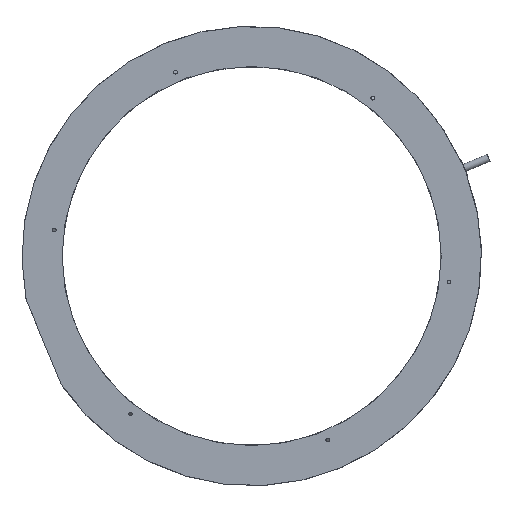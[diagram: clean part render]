
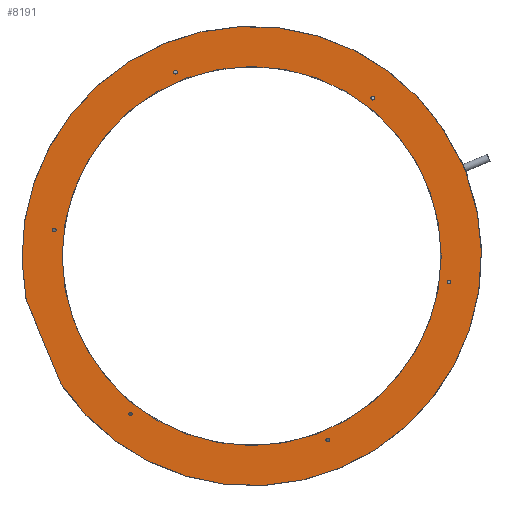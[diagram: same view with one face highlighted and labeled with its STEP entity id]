
A CAD part, top view. The second image highlights one B-rep face of the part: STEP entity #8191.
In plain terms, the highlighted planar face has unit normal (0, 0, 1).
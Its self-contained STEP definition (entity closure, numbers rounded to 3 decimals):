
#2717=CARTESIAN_POINT('',(79.139,103.136,2.));
#2718=DIRECTION('',(0.,0.,-1.));
#2719=DIRECTION('',(1.,0.,0.));
#2720=AXIS2_PLACEMENT_3D('',#2717,#2718,#2719);
#2722=CARTESIAN_POINT('',(79.139,103.136,2.));
#2723=DIRECTION('',(0.,0.,-1.));
#2724=DIRECTION('',(-1.,0.,0.));
#2725=AXIS2_PLACEMENT_3D('',#2722,#2723,#2724);
#2727=CARTESIAN_POINT('',(128.888,-16.968,2.));
#2728=DIRECTION('',(0.,0.,-1.));
#2729=DIRECTION('',(1.,0.,0.));
#2730=AXIS2_PLACEMENT_3D('',#2727,#2728,#2729);
#2732=CARTESIAN_POINT('',(128.888,-16.968,2.));
#2733=DIRECTION('',(0.,0.,-1.));
#2734=DIRECTION('',(-1.,0.,0.));
#2735=AXIS2_PLACEMENT_3D('',#2732,#2733,#2734);
#2737=CARTESIAN_POINT('',(49.749,-120.104,2.));
#2738=DIRECTION('',(0.,0.,-1.));
#2739=DIRECTION('',(1.,0.,0.));
#2740=AXIS2_PLACEMENT_3D('',#2737,#2738,#2739);
#2742=CARTESIAN_POINT('',(49.749,-120.104,2.));
#2743=DIRECTION('',(0.,0.,-1.));
#2744=DIRECTION('',(-1.,0.,0.));
#2745=AXIS2_PLACEMENT_3D('',#2742,#2743,#2744);
#2747=CARTESIAN_POINT('',(-79.139,-103.136,2.));
#2748=DIRECTION('',(0.,0.,-1.));
#2749=DIRECTION('',(1.,0.,0.));
#2750=AXIS2_PLACEMENT_3D('',#2747,#2748,#2749);
#2752=CARTESIAN_POINT('',(-79.139,-103.136,2.));
#2753=DIRECTION('',(0.,0.,-1.));
#2754=DIRECTION('',(-1.,0.,0.));
#2755=AXIS2_PLACEMENT_3D('',#2752,#2753,#2754);
#2757=CARTESIAN_POINT('',(-128.888,16.968,2.));
#2758=DIRECTION('',(0.,0.,-1.));
#2759=DIRECTION('',(1.,0.,0.));
#2760=AXIS2_PLACEMENT_3D('',#2757,#2758,#2759);
#2762=CARTESIAN_POINT('',(-128.888,16.968,2.));
#2763=DIRECTION('',(0.,0.,-1.));
#2764=DIRECTION('',(-1.,0.,0.));
#2765=AXIS2_PLACEMENT_3D('',#2762,#2763,#2764);
#2767=CARTESIAN_POINT('',(-49.749,120.104,2.));
#2768=DIRECTION('',(0.,0.,-1.));
#2769=DIRECTION('',(1.,0.,0.));
#2770=AXIS2_PLACEMENT_3D('',#2767,#2768,#2769);
#2772=CARTESIAN_POINT('',(-49.749,120.104,2.));
#2773=DIRECTION('',(0.,0.,-1.));
#2774=DIRECTION('',(-1.,0.,0.));
#2775=AXIS2_PLACEMENT_3D('',#2772,#2773,#2774);
#2777=CARTESIAN_POINT('',(0.,0.,2.));
#2778=DIRECTION('',(0.,0.,-1.));
#2779=DIRECTION('',(1.,0.,0.));
#2780=AXIS2_PLACEMENT_3D('',#2777,#2778,#2779);
#2782=CARTESIAN_POINT('',(0.,0.,2.));
#2783=DIRECTION('',(0.,0.,-1.));
#2784=DIRECTION('',(-1.,0.,0.));
#2785=AXIS2_PLACEMENT_3D('',#2782,#2783,#2784);
#2787=CARTESIAN_POINT('',(0.,0.,2.));
#2788=DIRECTION('',(0.,0.,1.));
#2789=DIRECTION('',(-0.829,-0.56,0.));
#2790=AXIS2_PLACEMENT_3D('',#2787,#2788,#2789);
#2792=DIRECTION('',(0.383,-0.924,0.));
#2793=VECTOR('',#2792,60.);
#2794=CARTESIAN_POINT('',(-147.263,-28.526,2.));
#2795=LINE('',#2794,#2793);
#2796=CARTESIAN_POINT('',(0.,0.,2.));
#2797=DIRECTION('',(0.,0.,1.));
#2798=DIRECTION('',(0.911,0.412,0.));
#2799=AXIS2_PLACEMENT_3D('',#2796,#2797,#2798);
#3014=CARTESIAN_POINT('',(140.348,52.938,2.));
#3016=DIRECTION('',(-0.924,-0.383,0.));
#3017=VECTOR('',#3016,0.277);
#3018=CARTESIAN_POINT('',(140.604,53.044,2.));
#3019=LINE('',#3018,#3017);
#3039=DIRECTION('',(0.383,-0.924,0.));
#3040=VECTOR('',#3039,9.6);
#3041=CARTESIAN_POINT('',(136.93,61.914,2.));
#3042=LINE('',#3041,#3040);
#3062=CARTESIAN_POINT('',(136.674,61.808,2.));
#3086=DIRECTION('',(0.924,0.383,0.));
#3087=VECTOR('',#3086,0.277);
#3088=CARTESIAN_POINT('',(136.674,61.808,2.));
#3089=LINE('',#3088,#3087);
#3894=CARTESIAN_POINT('',(140.604,53.044,2.));
#3895=VERTEX_POINT('',#3894);
#3896=CARTESIAN_POINT('',(136.93,61.914,2.));
#3897=VERTEX_POINT('',#3896);
#3986=CARTESIAN_POINT('',(123.75,0.,2.));
#3987=CARTESIAN_POINT('',(-123.75,0.,2.));
#3988=VERTEX_POINT('',#3986);
#3989=VERTEX_POINT('',#3987);
#3990=CARTESIAN_POINT('',(-147.263,-28.526,2.));
#3991=CARTESIAN_POINT('',(-124.302,-83.959,2.));
#3992=VERTEX_POINT('',#3990);
#3993=VERTEX_POINT('',#3991);
#4014=VERTEX_POINT('',#3014);
#4016=VERTEX_POINT('',#3062);
#4018=CARTESIAN_POINT('',(-48.499,120.104,2.));
#4019=CARTESIAN_POINT('',(-50.999,120.104,2.));
#4020=VERTEX_POINT('',#4018);
#4021=VERTEX_POINT('',#4019);
#4022=CARTESIAN_POINT('',(-127.638,16.968,2.));
#4023=CARTESIAN_POINT('',(-130.138,16.968,2.));
#4024=VERTEX_POINT('',#4022);
#4025=VERTEX_POINT('',#4023);
#4026=CARTESIAN_POINT('',(-77.889,-103.136,2.));
#4027=CARTESIAN_POINT('',(-80.389,-103.136,2.));
#4028=VERTEX_POINT('',#4026);
#4029=VERTEX_POINT('',#4027);
#4030=CARTESIAN_POINT('',(50.999,-120.104,2.));
#4031=CARTESIAN_POINT('',(48.499,-120.104,2.));
#4032=VERTEX_POINT('',#4030);
#4033=VERTEX_POINT('',#4031);
#4034=CARTESIAN_POINT('',(130.138,-16.968,2.));
#4035=CARTESIAN_POINT('',(127.638,-16.968,2.));
#4036=VERTEX_POINT('',#4034);
#4037=VERTEX_POINT('',#4035);
#4038=CARTESIAN_POINT('',(80.389,103.136,2.));
#4039=CARTESIAN_POINT('',(77.889,103.136,2.));
#4040=VERTEX_POINT('',#4038);
#4041=VERTEX_POINT('',#4039);
#8132=CARTESIAN_POINT('',(138.49,57.364,2.));
#8133=DIRECTION('',(0.,0.,1.));
#8134=DIRECTION('',(0.924,0.383,0.));
#8135=AXIS2_PLACEMENT_3D('',#8132,#8133,#8134);
#8136=PLANE('',#8135);
#8138=ORIENTED_EDGE('',*,*,#8137,.T.);
#8140=ORIENTED_EDGE('',*,*,#8139,.F.);
#8142=ORIENTED_EDGE('',*,*,#8141,.F.);
#8144=ORIENTED_EDGE('',*,*,#8143,.F.);
#8146=ORIENTED_EDGE('',*,*,#8145,.T.);
#8148=ORIENTED_EDGE('',*,*,#8147,.T.);
#8149=EDGE_LOOP('',(#8138,#8140,#8142,#8144,#8146,#8148));
#8150=FACE_OUTER_BOUND('',#8149,.F.);
#8152=ORIENTED_EDGE('',*,*,#8151,.F.);
#8154=ORIENTED_EDGE('',*,*,#8153,.F.);
#8155=EDGE_LOOP('',(#8152,#8154));
#8156=FACE_BOUND('',#8155,.F.);
#8158=ORIENTED_EDGE('',*,*,#8157,.F.);
#8160=ORIENTED_EDGE('',*,*,#8159,.F.);
#8161=EDGE_LOOP('',(#8158,#8160));
#8162=FACE_BOUND('',#8161,.F.);
#8164=ORIENTED_EDGE('',*,*,#8163,.F.);
#8166=ORIENTED_EDGE('',*,*,#8165,.F.);
#8167=EDGE_LOOP('',(#8164,#8166));
#8168=FACE_BOUND('',#8167,.F.);
#8170=ORIENTED_EDGE('',*,*,#8169,.F.);
#8172=ORIENTED_EDGE('',*,*,#8171,.F.);
#8173=EDGE_LOOP('',(#8170,#8172));
#8174=FACE_BOUND('',#8173,.F.);
#8176=ORIENTED_EDGE('',*,*,#8175,.F.);
#8178=ORIENTED_EDGE('',*,*,#8177,.F.);
#8179=EDGE_LOOP('',(#8176,#8178));
#8180=FACE_BOUND('',#8179,.F.);
#8181=ORIENTED_EDGE('',*,*,#8123,.F.);
#8182=ORIENTED_EDGE('',*,*,#8103,.F.);
#8183=EDGE_LOOP('',(#8181,#8182));
#8184=FACE_BOUND('',#8183,.F.);
#8186=ORIENTED_EDGE('',*,*,#8185,.F.);
#8188=ORIENTED_EDGE('',*,*,#8187,.F.);
#8189=EDGE_LOOP('',(#8186,#8188));
#8190=FACE_BOUND('',#8189,.F.);
#8191=ADVANCED_FACE('',(#8150,#8156,#8162,#8168,#8174,#8180,#8184,#8190),#8136,
.T.);
#2721=CIRCLE('',#2720,1.25);
#2726=CIRCLE('',#2725,1.25);
#2731=CIRCLE('',#2730,1.25);
#2736=CIRCLE('',#2735,1.25);
#2741=CIRCLE('',#2740,1.25);
#2746=CIRCLE('',#2745,1.25);
#2751=CIRCLE('',#2750,1.25);
#2756=CIRCLE('',#2755,1.25);
#2761=CIRCLE('',#2760,1.25);
#2766=CIRCLE('',#2765,1.25);
#2771=CIRCLE('',#2770,1.25);
#2776=CIRCLE('',#2775,1.25);
#2781=CIRCLE('',#2780,123.75);
#2786=CIRCLE('',#2785,123.75);
#2791=CIRCLE('',#2790,150.);
#2800=CIRCLE('',#2799,150.);
#8103=EDGE_CURVE('',#3989,#3988,#2786,.T.);
#8123=EDGE_CURVE('',#3988,#3989,#2781,.T.);
#8137=EDGE_CURVE('',#3895,#4014,#3019,.T.);
#8139=EDGE_CURVE('',#3993,#4014,#2791,.T.);
#8141=EDGE_CURVE('',#3992,#3993,#2795,.T.);
#8143=EDGE_CURVE('',#4016,#3992,#2800,.T.);
#8145=EDGE_CURVE('',#4016,#3897,#3089,.T.);
#8147=EDGE_CURVE('',#3897,#3895,#3042,.T.);
#8151=EDGE_CURVE('',#4036,#4037,#2731,.T.);
#8153=EDGE_CURVE('',#4037,#4036,#2736,.T.);
#8157=EDGE_CURVE('',#4032,#4033,#2741,.T.);
#8159=EDGE_CURVE('',#4033,#4032,#2746,.T.);
#8163=EDGE_CURVE('',#4028,#4029,#2751,.T.);
#8165=EDGE_CURVE('',#4029,#4028,#2756,.T.);
#8169=EDGE_CURVE('',#4024,#4025,#2761,.T.);
#8171=EDGE_CURVE('',#4025,#4024,#2766,.T.);
#8175=EDGE_CURVE('',#4020,#4021,#2771,.T.);
#8177=EDGE_CURVE('',#4021,#4020,#2776,.T.);
#8185=EDGE_CURVE('',#4040,#4041,#2721,.T.);
#8187=EDGE_CURVE('',#4041,#4040,#2726,.T.);
